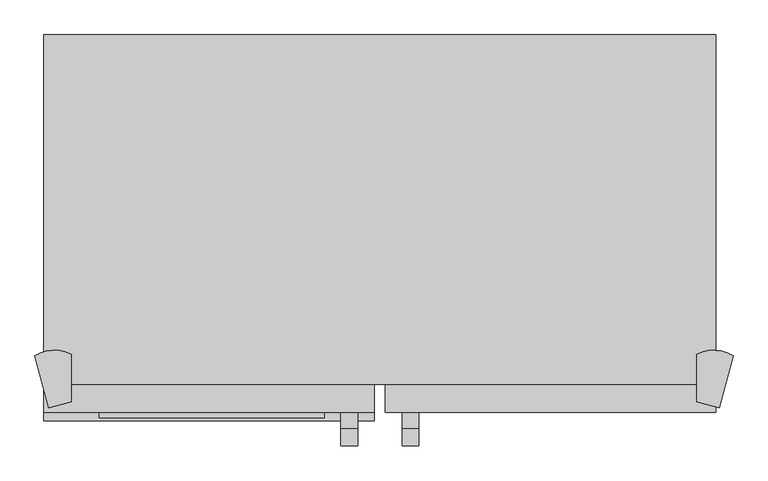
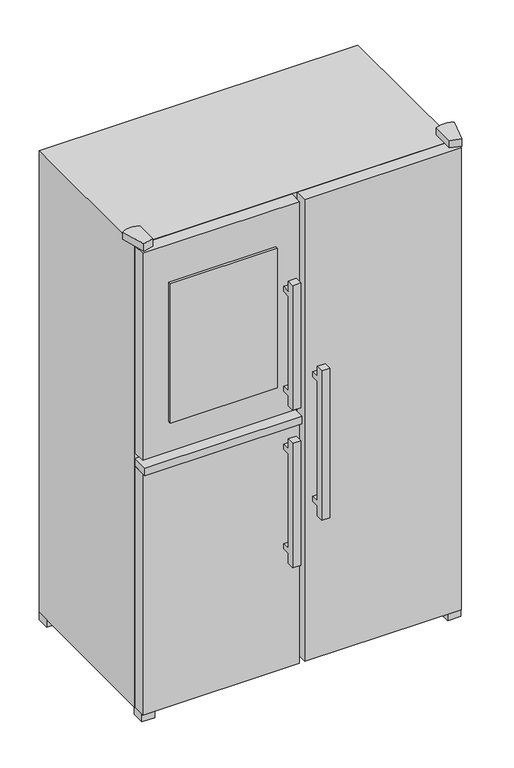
"""IFC4 building model written with IfcOpenShell, lengths in millimetres: proxy geometry, SBSes 7165_049 : SBSes 7165."""

from ifc_helpers import new_model, si_unit, point, frame, frame_2d, origin, place, context, project, spatial, polyline, circle_curve, trimmed, segment, composite_curve, outline, extrude, faceted_brep, source, transform, mapped, element, save


def specialty_equipment_43d568f8(model_context):
    return source(origin(), model_context, "Body", "SolidModel", [
        extrude(outline(polyline([(-495.0, -659.8345306), (-900.0, -659.8345306), (-900.0, -130.3326766), (-495.0, -130.3326766), (-495.0, -659.8345306)])), frame((0.0, 0.0, 406.8132517), z_axis=(0.0, 0.0, 1.0), x_axis=(1.0, 0.0, 0.0)), (0.0, 0.0, 1.0), 30.0),
        extrude(outline(polyline([(-495.0, -659.8345306), (-900.0, -659.8345306), (-900.0, -130.3326766), (-495.0, -130.3326766), (-495.0, -659.8345306)])), frame((0.0, 0.0, 636.8132517), z_axis=(0.0, 0.0, 1.0), x_axis=(1.0, 0.0, 0.0)), (0.0, 0.0, 1.0), 30.0),
        extrude(outline(polyline([(210.0, -655.0864632), (210.0, -705.0864632), (160.0, -705.0864632), (160.0, -655.0864632), (210.0, -655.0864632)])), frame((0.0, 0.0, -915.1867483), z_axis=(0.0, 0.0, 1.0), x_axis=(1.0, 0.0, 0.0)), (0.0, 0.0, 1.0), 30.0),
        extrude(outline(polyline([(210.0, -29.8345306), (210.0, -79.8345306), (160.0, -79.8345306), (160.0, -29.8345306), (210.0, -29.8345306)])), frame((0.0, 0.0, -915.1867483), z_axis=(0.0, 0.0, 1.0), x_axis=(1.0, 0.0, 0.0)), (0.0, 0.0, 1.0), 30.0),
        extrude(outline(polyline([(-950.0, -29.8345306), (-950.0, -79.8345306), (-1000.0, -79.8345306), (-1000.0, -29.8345306), (-950.0, -29.8345306)])), frame((0.0, 0.0, -915.1867483), z_axis=(0.0, 0.0, 1.0), x_axis=(1.0, 0.0, 0.0)), (0.0, 0.0, 1.0), 30.0),
        extrude(outline(polyline([(-950.0, -655.0864632), (-950.0, -705.0864632), (-1000.0, -705.0864632), (-1000.0, -655.0864632), (-950.0, -655.0864632)])), frame((0.0, 0.0, -915.1867483), z_axis=(0.0, 0.0, 1.0), x_axis=(1.0, 0.0, 0.0)), (0.0, 0.0, 1.0), 30.0),
        extrude(outline(composite_curve([segment(polyline([(215.4751893, -701.3954664), (175.4211614, -690.663022), (175.4211614, -605.5856816)]), True, "CONTINUOUS"), segment(trimmed(circle_curve(frame_2d((205.8636246, -662.0484332)), 64.1465968), [point((175.4211614, -605.5856816))], [point((240.7822422, -608.2388055))], False, "CARTESIAN"), True, "CONTINUOUS"), segment(polyline([(240.7822422, -608.2388055), (215.4751893, -701.3954664)]), True, "CONTINUOUS")], self_intersect=False)), frame((0.0, 0.0, 966.8132517), z_axis=(0.0, 0.0, 1.0), x_axis=(1.0, 0.0, 0.0)), (0.0, 0.0, 1.0), 30.0),
        extrude(outline(composite_curve([segment(polyline([(-990.4751893, -701.3954664), (-1015.7822422, -608.2388055)]), True, "CONTINUOUS"), segment(trimmed(circle_curve(frame_2d((-980.8636246, -662.0484332)), 64.1465968), [point((-1015.7822422, -608.2388055))], [point((-950.4211614, -605.5856816))], False, "CARTESIAN"), True, "CONTINUOUS"), segment(polyline([(-950.4211614, -605.5856816), (-950.4211614, -690.663022), (-990.4751893, -701.3954664)]), True, "CONTINUOUS")], self_intersect=False)), frame((0.0, 0.0, 966.8132517), z_axis=(0.0, 0.0, 1.0), x_axis=(1.0, 0.0, 0.0)), (0.0, 0.0, 1.0), 30.0),
        extrude(outline(polyline([(-739.8345306, 266.8132517), (-709.8345306, 266.8132517), (-709.8345306, 246.8132517), (-739.8345306, 246.8132517), (-739.8345306, -233.1867483), (-709.8345306, -233.1867483), (-709.8345306, -253.1867483), (-739.8345306, -253.1867483), (-739.8345306, -293.1867483), (-769.8345306, -293.1867483), (-769.8345306, 306.8132517), (-739.8345306, 306.8132517), (-739.8345306, 266.8132517)])), frame((-355.0, 0.0, 0.0), z_axis=(1.0, 0.0, 0.0), x_axis=(0.0, 1.0, 0.0)), (0.0, 0.0, 1.0), 30.0),
        extrude(outline(polyline([(-739.8345306, 14.8132517), (-709.8345306, 14.8132517), (-709.8345306, -5.1867483), (-739.8345306, -5.1867483), (-739.8345306, -385.1867483), (-709.8345306, -385.1867483), (-709.8345306, -405.1867483), (-739.8345306, -405.1867483), (-739.8345306, -445.1867483), (-769.8345306, -445.1867483), (-769.8345306, 54.8132517), (-739.8345306, 54.8132517), (-739.8345306, 14.8132517)])), frame((-465.0, 0.0, 0.0), z_axis=(1.0, 0.0, 0.0), x_axis=(0.0, 1.0, 0.0)), (0.0, 0.0, 1.0), 30.0),
        extrude(outline(polyline([(-739.8345306, 647.1002065), (-709.8345306, 647.1002065), (-709.8345306, 627.1002065), (-739.8345306, 627.1002065), (-739.8345306, 247.1002065), (-709.8345306, 247.1002065), (-709.8345306, 227.1002065), (-739.8345306, 227.1002065), (-739.8345306, 187.1002065), (-769.8345306, 187.1002065), (-769.8345306, 687.1002065), (-739.8345306, 687.1002065), (-739.8345306, 647.1002065)])), frame((-465.0, 0.0, 0.0), z_axis=(1.0, 0.0, 0.0), x_axis=(0.0, 1.0, 0.0)), (0.0, 0.0, 1.0), 30.0),
        extrude(outline(polyline([(-495.0, -719.8345306), (-900.0, -719.8345306), (-900.0, -659.8345306), (-495.0, -659.8345306), (-495.0, -719.8345306)])), frame((0.0, 0.0, 256.8132517), z_axis=(0.0, 0.0, 1.0), x_axis=(1.0, 0.0, 0.0)), (0.0, 0.0, 1.0), 560.0),
        faceted_brep([(210.0, -659.8345306, 966.8132517), (-1000.0, -659.8345306, 966.8132517), (-1000.0, -659.8345306, -885.1867483), (210.0, -659.8345306, -885.1867483), (-900.0, -659.8345306, 816.8132517), (-495.0, -659.8345306, 816.8132517), (-495.0, -659.8345306, 256.8132517), (-900.0, -659.8345306, 256.8132517), (210.0, -29.8345306, 966.8132517), (210.0, -29.8345306, -885.1867483), (-1000.0, -29.8345306, -885.1867483), (-1000.0, -29.8345306, 966.8132517), (-495.0, -130.3326766, 816.8132517), (-900.0, -130.3326766, 816.8132517), (-900.0, -130.3326766, 256.8132517), (-495.0, -130.3326766, 256.8132517)], [[[0, 1, 2, 3], [4, 5, 6, 7]], [[8, 9, 10, 11]], [[1, 0, 8, 11]], [[2, 1, 11, 10]], [[3, 2, 10, 9]], [[0, 3, 9, 8]], [[12, 13, 14, 15]], [[13, 12, 5, 4]], [[14, 13, 4, 7]], [[15, 14, 7, 6]], [[12, 15, 6, 5]]]),
        extrude(outline(polyline([(-405.0, -724.8345306), (-1000.0, -724.8345306), (-1000.0, -659.8345306), (-405.0, -659.8345306), (-405.0, -724.8345306)])), frame((0.0, 0.0, 84.8132517), z_axis=(0.0, 0.0, 1.0), x_axis=(1.0, 0.0, 0.0)), (0.0, 0.0, 1.0), 30.0),
        extrude(outline(polyline([(966.8132517, -405.0), (966.8132517, -1000.0), (137.1002065, -1000.0), (137.1002065, -405.0), (966.8132517, -405.0)]), holes=[polyline([(816.8132517, -900.0), (816.8132517, -495.0), (256.8132517, -495.0), (256.8132517, -900.0), (816.8132517, -900.0)])]), frame((0.0, -709.8345306, 0.0), z_axis=(0.0, 1.0, 0.0), x_axis=(0.0, 0.0, 1.0)), (0.0, 0.0, 1.0), 50.0),
        extrude(outline(polyline([(-405.0, -709.8345306), (-1000.0, -709.8345306), (-1000.0, -659.8345306), (-405.0, -659.8345306), (-405.0, -709.8345306)])), frame((0.0, 0.0, -885.1867483), z_axis=(0.0, 0.0, 1.0), x_axis=(1.0, 0.0, 0.0)), (0.0, 0.0, 1.0), 970.0),
        extrude(outline(polyline([(210.0, -709.8345306), (-385.0, -709.8345306), (-385.0, -659.8345306), (210.0, -659.8345306), (210.0, -709.8345306)])), frame((0.0, 0.0, -885.1867483), z_axis=(0.0, 0.0, 1.0), x_axis=(1.0, 0.0, 0.0)), (0.0, 0.0, 1.0), 1852.0),
    ])


if __name__ == "__main__":
    model = new_model("IFC4")
    model_context = context("Model", 3, world=origin())
    ifc_project = project(units=[si_unit("LENGTHUNIT", "METRE", prefix="MILLI")], contexts=[model_context])
    site = spatial("IfcSite", under=ifc_project)
    building = spatial("IfcBuilding", under=site)
    placement = place(None, origin())
    specialty_equipment_shape = specialty_equipment_43d568f8(model_context)
    element("IfcBuildingElementProxy", 1, Name="SBSes 7165_049 : SBSes 7165", ObjectType="SBSes 7165_049 : SBSes 7165", at=placement, inside=building, context=model_context, shape_type="MappedRepresentation", body=[
        mapped(specialty_equipment_shape, transform((0.0, 0.0, 0.0), x_axis=(1.0, 0.0, 0.0), y_axis=(0.0, 1.0, 0.0), z_axis=(0.0, 0.0, 1.0))),
    ])
    save(model, "model.ifc")
